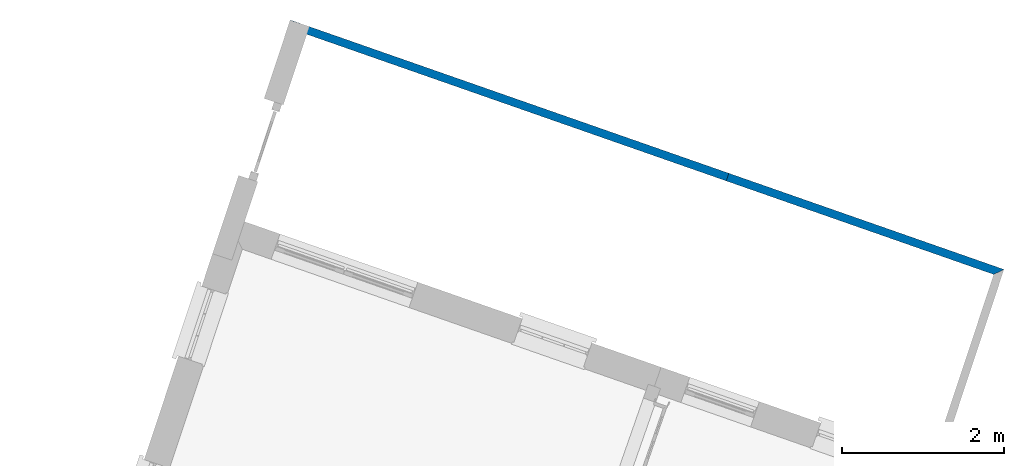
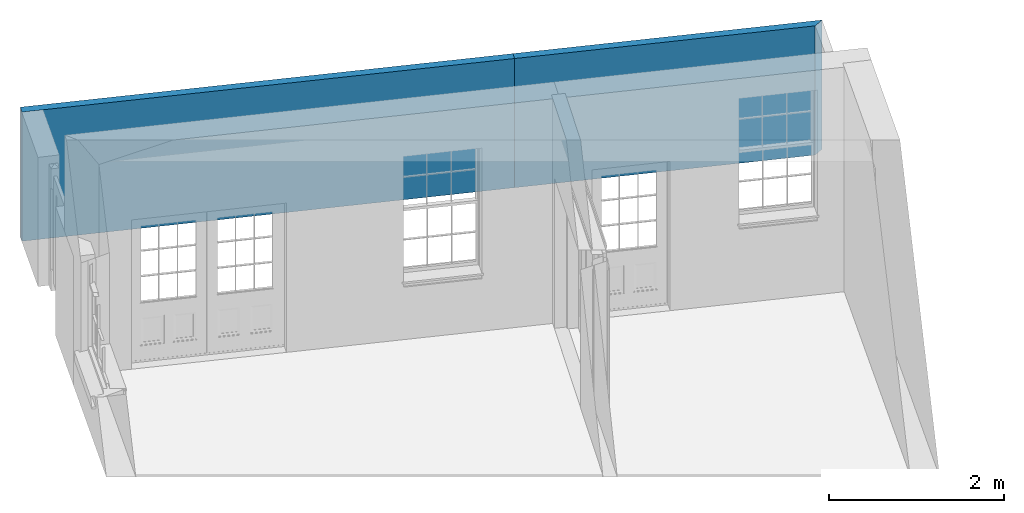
# One storey, part 9 of 10: 2 walls.
"""IFC4 building model written with IfcOpenShell, lengths in metres."""

from ifc_helpers import new_model, si_unit, frame, origin_with_axes, place, context, subcontext, project, spatial, polyline, outline, extrude, material, layer, layer_set, layer_usage, type_object, element, save


model = new_model("IFC4")

# Units and contexts
model_context = context("Model", 3, world=origin_with_axes())
body_context = subcontext(model_context, "Body", "Model", "MODEL_VIEW")
ifc_project = project(units=[si_unit("PLANEANGLEUNIT", "RADIAN"), si_unit("MASSUNIT", "GRAM", prefix="KILO"), si_unit("FORCEUNIT", "NEWTON", prefix="KILO"), si_unit("LENGTHUNIT", "METRE"), si_unit("AREAUNIT", "SQUARE_METRE"), si_unit("VOLUMEUNIT", "CUBIC_METRE")], contexts=[model_context, model_context])

# Sites, building, storey
site_1_placement = place(None, origin_with_axes())
site_1 = spatial("IfcSite", under=ifc_project, at=site_1_placement, Name="Tamar")
site_2_placement = place(site_1_placement, origin_with_axes())
site_2 = spatial("IfcSite", under=site_1, at=site_2_placement, Name="Site plot-15", CompositionType="ELEMENT")
building_placement = place(None, origin_with_axes())
building = spatial("IfcBuilding", under=site_2, at=building_placement, Name="Building plot-15", CompositionType="ELEMENT")
storey_placement = place(None, frame((0.0, 0.0, 26.8), z_axis=(0.0, 0.0, 1.0), x_axis=(1.0, 0.0, 0.0)))
storey = spatial("IfcBuildingStorey", under=building, at=storey_placement, Name="plot-15 0", CompositionType="ELEMENT", Elevation=26.8)

# Walls
ifc_material = material(Name="Masonry")
ifc_layer = layer(ifc_material, 0.1, ventilated=False)
ifc_layer_set = layer_set([ifc_layer], Name="fence_-0.15_0.25")
ifc_layer_usage = layer_usage(ifc_layer_set, "AXIS2", "POSITIVE", -0.25)
wall_type = type_object("IfcWallType", Name="fence_-0.15_0.25", PredefinedType="SOLIDWALL", material=ifc_layer_set)
wall_1_placement = place(storey_placement, frame((267.774300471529, 310.513453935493, 0.0), z_axis=(0.0, 0.0, 1.0), x_axis=(-0.943980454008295, 0.330001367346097, 0.0)))
element("IfcWall", 1, at=wall_1_placement, inside=storey, type_object=wall_type, material=ifc_layer_usage, Name="fence", context=body_context, shape_type="SweptSolid", body=[
    extrude(outline(polyline([(-0.147647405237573, -0.150000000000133), (-0.246079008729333, -0.250000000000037), (3.34513995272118, -0.250000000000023), (3.34513995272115, -0.150000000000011), (-0.147647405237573, -0.150000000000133)])), origin_with_axes(), (0.0, 0.0, 1.0), 1.8),
])
wall_2_placement = place(storey_placement, frame((264.616553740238, 311.617354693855, 0.0), z_axis=(0.0, 0.0, 1.0), x_axis=(-0.943980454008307, 0.330001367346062, 0.0)))
element("IfcWall", 2, at=wall_2_placement, inside=storey, type_object=wall_type, material=ifc_layer_usage, Name="fence", context=body_context, shape_type="SweptSolid", body=[
    extrude(outline(polyline([(-2.39716324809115e-14, -0.150000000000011), (2.06922068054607e-15, -0.250000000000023), (5.72298735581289, -0.25000000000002), (5.72298735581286, -0.150000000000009), (-2.39716324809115e-14, -0.150000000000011)])), origin_with_axes(), (0.0, 0.0, 1.0), 1.8),
])

save(model, "model.ifc")
